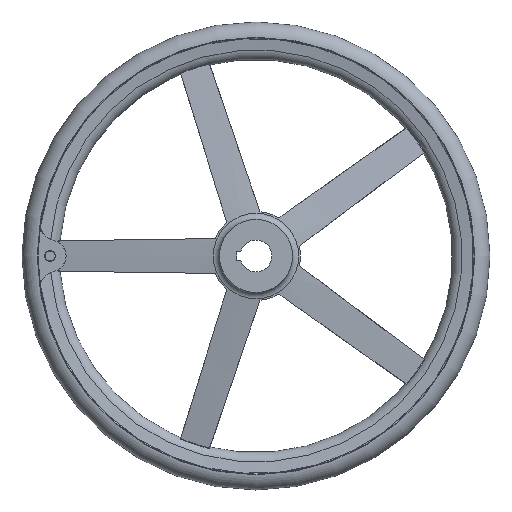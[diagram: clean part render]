
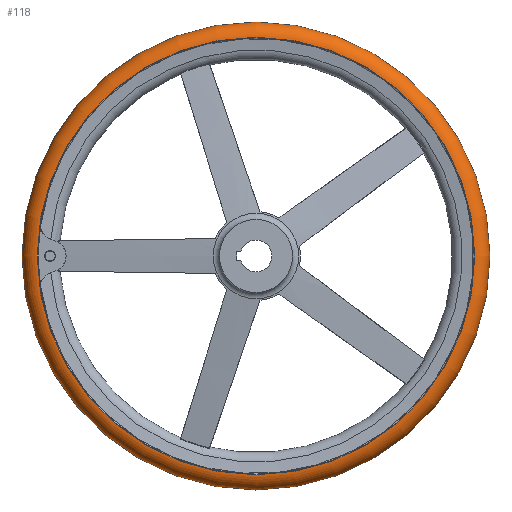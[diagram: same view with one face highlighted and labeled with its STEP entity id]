
A CAD part, left-side view. The second image highlights one B-rep face of the part: STEP entity #118.
In plain terms, the highlighted toroidal (fillet/blend) face has major radius 232.985 mm and minor radius 17.015 mm.
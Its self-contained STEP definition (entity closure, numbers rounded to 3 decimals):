
#118 = ADVANCED_FACE( '', ( #252, #253, #254 ), #255, .T. );
#252 = FACE_BOUND( '', #452, .T. );
#253 = FACE_OUTER_BOUND( '', #453, .T. );
#254 = FACE_OUTER_BOUND( '', #454, .T. );
#255 = TOROIDAL_SURFACE( '', #455, 232.985, 17.015 );
#452 = VERTEX_LOOP( '', #873 );
#453 = EDGE_LOOP( '', ( #874 ) );
#454 = EDGE_LOOP( '', ( #875 ) );
#455 = AXIS2_PLACEMENT_3D( '', #876, #877, #878 );
#873 = VERTEX_POINT( '', #1209 );
#874 = ORIENTED_EDGE( '', *, *, #1208, .T. );
#875 = ORIENTED_EDGE( '', *, *, #1189, .F. );
#876 = CARTESIAN_POINT( '', ( 55., 0., 0. ) );
#877 = DIRECTION( '', ( 1., 0., 0. ) );
#878 = DIRECTION( '', ( 0., 1., 0. ) );
#1189 = EDGE_CURVE( '', #1467, #1467, #1468, .T. );
#1208 = EDGE_CURVE( '', #1496, #1496, #1497, .T. );
#1209 = CARTESIAN_POINT( '', ( 55., 250., 0. ) );
#1467 = VERTEX_POINT( '', #2355 );
#1468 = CIRCLE( '', #2356, 233.708 );
#1496 = VERTEX_POINT( '', #2425 );
#1497 = CIRCLE( '', #2426, 233.708 );
#2355 = CARTESIAN_POINT( '', ( 72., 233.708, 0. ) );
#2356 = AXIS2_PLACEMENT_3D( '', #2677, #2678, #2679 );
#2425 = CARTESIAN_POINT( '', ( 38., 233.708, 0. ) );
#2426 = AXIS2_PLACEMENT_3D( '', #2718, #2719, #2720 );
#2677 = CARTESIAN_POINT( '', ( 72., 0., 0. ) );
#2678 = DIRECTION( '', ( 1., 0., 0. ) );
#2679 = DIRECTION( '', ( 0., 1., 0. ) );
#2718 = CARTESIAN_POINT( '', ( 38., 0., 0. ) );
#2719 = DIRECTION( '', ( 1., 0., 0. ) );
#2720 = DIRECTION( '', ( 0., 1., 0. ) );
